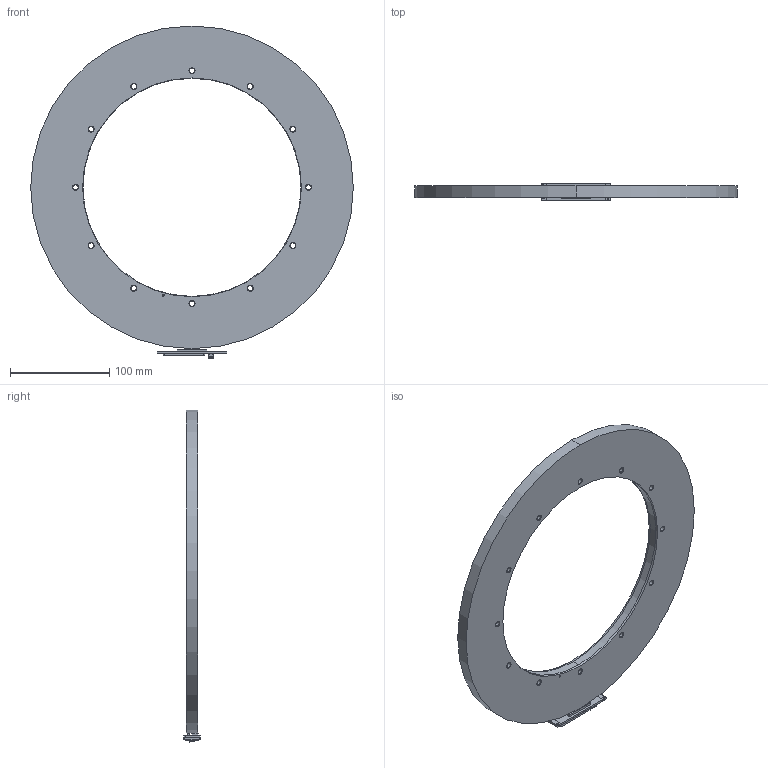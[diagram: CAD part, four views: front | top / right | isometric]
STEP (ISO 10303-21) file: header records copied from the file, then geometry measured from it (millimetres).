
FILE_DESCRIPTION (( 'STEP AP214' ), '1' );
FILE_NAME ('DBRxHx_SAR325_exposed.STEP', '2024-02-02T11:36:33', ( '' ), ( '' ), 'SwSTEP 2.0', 'SolidWorks 2022', '' );
FILE_SCHEMA (( 'AUTOMOTIVE_DESIGN' ));
Length unit declared in the file: millimetre
Products named in the file (1): DBRxHx_SAR325_exposed
Bounding box: 325.5 x 17 x 334.92 mm (x, y, z)
Volume: 533636.2 mm3; surface area: 117423.8 mm2
Topology: 1 solids, 2 shells, 1645 faces, 4544 edges, 3001 vertices
Faces by surface type: plane 1219, bspline 203, cylinder 159, cone 60, sphere 4
Entity records: 80871 total; most frequent: CARTESIAN_POINT 25374, ORIENTED_EDGE 9066, DIRECTION 5481, EDGE_CURVE 4533, VERTEX_POINT 3000, B_SPLINE_CURVE_WITH_KNOTS 2158, LINE 2155, VECTOR 2155
